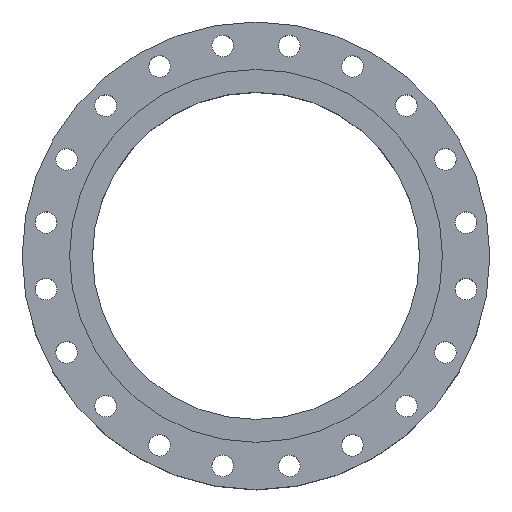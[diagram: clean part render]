
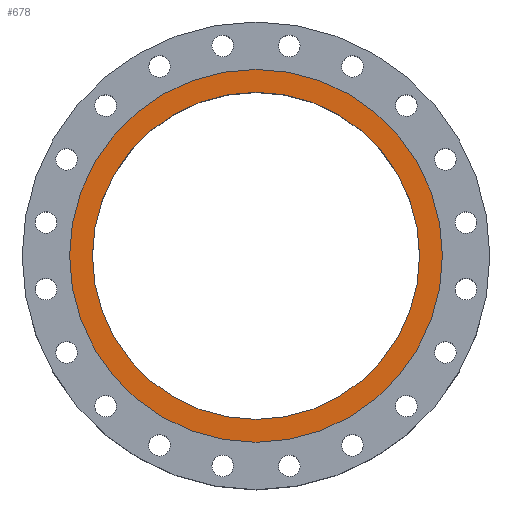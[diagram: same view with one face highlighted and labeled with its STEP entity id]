
A CAD part, top view. The second image highlights one B-rep face of the part: STEP entity #678.
In plain terms, the highlighted planar face has unit normal (0, 0, 1).
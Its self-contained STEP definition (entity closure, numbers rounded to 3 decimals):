
#678=ADVANCED_FACE('',(#1503,#1505),#1507,.T.);
#1503=FACE_BOUND('',#1504,.T.);
#1504=EDGE_LOOP('',(#1836));
#1505=FACE_BOUND('',#1506,.T.);
#1506=EDGE_LOOP('',(#1837));
#1507=PLANE('',#1508);
#1508=AXIS2_PLACEMENT_3D('',#1509,#1510,#1511);
#1509=CARTESIAN_POINT('',(0.,0.,132.5));
#1510=DIRECTION('',(0.,0.,1.));
#1511=DIRECTION('',(0.,1.,0.));
#1836=ORIENTED_EDGE('',*,*,#1984,.F.);
#1837=ORIENTED_EDGE('',*,*,#1986,.T.);
#1984=EDGE_CURVE('',#2246,#2246,#2247,.T.);
#1986=EDGE_CURVE('',#2250,#2250,#2251,.T.);
#2246=VERTEX_POINT('',#3922);
#2247=CIRCLE('',#3923,285.);
#2250=VERTEX_POINT('',#3932);
#2251=CIRCLE('',#3933,250.);
#3922=CARTESIAN_POINT('',(0.,285.,132.5));
#3923=AXIS2_PLACEMENT_3D('',#3924,#3925,#3926);
#3924=CARTESIAN_POINT('',(0.,0.,132.5));
#3925=DIRECTION('',(0.,0.,-1.));
#3926=DIRECTION('',(0.,1.,0.));
#3932=CARTESIAN_POINT('',(0.,250.,132.5));
#3933=AXIS2_PLACEMENT_3D('',#3934,#3935,#3936);
#3934=CARTESIAN_POINT('',(0.,0.,132.5));
#3935=DIRECTION('',(0.,0.,-1.));
#3936=DIRECTION('',(0.,1.,0.));
